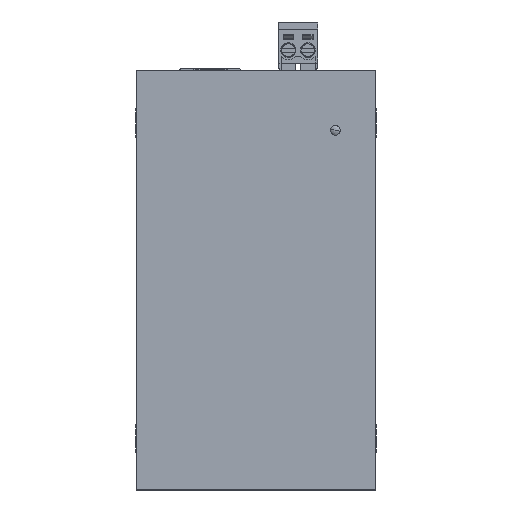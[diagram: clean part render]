
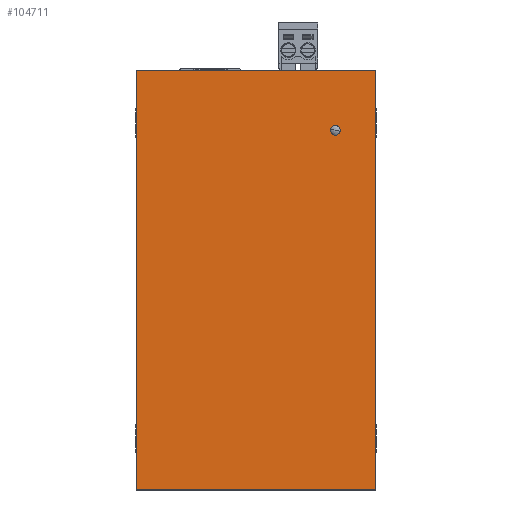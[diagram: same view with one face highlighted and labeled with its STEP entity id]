
A CAD part, top view. The second image highlights one B-rep face of the part: STEP entity #104711.
In plain terms, the highlighted planar face has unit normal (0, 0, 1).
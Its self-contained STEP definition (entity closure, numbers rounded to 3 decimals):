
#44493 = PLANE('',#44494);
#44494 = AXIS2_PLACEMENT_3D('',#44495,#44496,#44497);
#44495 = CARTESIAN_POINT('',(0.,0.,0.));
#44496 = DIRECTION('',(0.,1.,0.));
#44497 = DIRECTION('',(0.,0.,1.));
#44829 = CYLINDRICAL_SURFACE('',#44830,0.95);
#44830 = AXIS2_PLACEMENT_3D('',#44831,#44832,#44833);
#44831 = CARTESIAN_POINT('',(38.75,70.,20.));
#44832 = DIRECTION('',(0.,0.,1.));
#44833 = DIRECTION('',(1.,0.,0.));
#67532 = VERTEX_POINT('',#67533);
#67533 = CARTESIAN_POINT('',(0.,0.,24.4));
#67547 = PLANE('',#67548);
#67548 = AXIS2_PLACEMENT_3D('',#67549,#67550,#67551);
#67549 = CARTESIAN_POINT('',(0.,0.,0.));
#67550 = DIRECTION('',(1.,0.,0.));
#67551 = DIRECTION('',(0.,0.,1.));
#67559 = EDGE_CURVE('',#67532,#67560,#67562,.T.);
#67560 = VERTEX_POINT('',#67561);
#67561 = CARTESIAN_POINT('',(46.6,0.,24.4));
#67562 = SURFACE_CURVE('',#67563,(#67567,#67574),.PCURVE_S1.);
#67563 = LINE('',#67564,#67565);
#67564 = CARTESIAN_POINT('',(0.,0.,24.4));
#67565 = VECTOR('',#67566,1.);
#67566 = DIRECTION('',(1.,0.,0.));
#67567 = PCURVE('',#44493,#67568);
#67568 = DEFINITIONAL_REPRESENTATION('',(#67569),#67573);
#67569 = LINE('',#67570,#67571);
#67570 = CARTESIAN_POINT('',(24.4,0.));
#67571 = VECTOR('',#67572,1.);
#67572 = DIRECTION('',(0.,1.));
#67573 = ( GEOMETRIC_REPRESENTATION_CONTEXT(2) 
PARAMETRIC_REPRESENTATION_CONTEXT() REPRESENTATION_CONTEXT('2D SPACE',''
  ) );
#67574 = PCURVE('',#67575,#67580);
#67575 = PLANE('',#67576);
#67576 = AXIS2_PLACEMENT_3D('',#67577,#67578,#67579);
#67577 = CARTESIAN_POINT('',(0.,0.,24.4));
#67578 = DIRECTION('',(0.,0.,1.));
#67579 = DIRECTION('',(1.,0.,0.));
#67580 = DEFINITIONAL_REPRESENTATION('',(#67581),#67585);
#67581 = LINE('',#67582,#67583);
#67582 = CARTESIAN_POINT('',(0.,0.));
#67583 = VECTOR('',#67584,1.);
#67584 = DIRECTION('',(1.,0.));
#67585 = ( GEOMETRIC_REPRESENTATION_CONTEXT(2) 
PARAMETRIC_REPRESENTATION_CONTEXT() REPRESENTATION_CONTEXT('2D SPACE',''
  ) );
#67601 = PLANE('',#67602);
#67602 = AXIS2_PLACEMENT_3D('',#67603,#67604,#67605);
#67603 = CARTESIAN_POINT('',(46.6,0.,0.));
#67604 = DIRECTION('',(1.,0.,0.));
#67605 = DIRECTION('',(0.,0.,1.));
#69081 = EDGE_CURVE('',#69082,#69082,#69084,.T.);
#69082 = VERTEX_POINT('',#69083);
#69083 = CARTESIAN_POINT('',(39.7,70.,24.4));
#69084 = SURFACE_CURVE('',#69085,(#69090,#69097),.PCURVE_S1.);
#69085 = CIRCLE('',#69086,0.95);
#69086 = AXIS2_PLACEMENT_3D('',#69087,#69088,#69089);
#69087 = CARTESIAN_POINT('',(38.75,70.,24.4));
#69088 = DIRECTION('',(0.,0.,1.));
#69089 = DIRECTION('',(1.,0.,0.));
#69090 = PCURVE('',#44829,#69091);
#69091 = DEFINITIONAL_REPRESENTATION('',(#69092),#69096);
#69092 = LINE('',#69093,#69094);
#69093 = CARTESIAN_POINT('',(0.,4.4));
#69094 = VECTOR('',#69095,1.);
#69095 = DIRECTION('',(1.,0.));
#69096 = ( GEOMETRIC_REPRESENTATION_CONTEXT(2) 
PARAMETRIC_REPRESENTATION_CONTEXT() REPRESENTATION_CONTEXT('2D SPACE',''
  ) );
#69097 = PCURVE('',#67575,#69098);
#69098 = DEFINITIONAL_REPRESENTATION('',(#69099),#69103);
#69099 = CIRCLE('',#69100,0.95);
#69100 = AXIS2_PLACEMENT_2D('',#69101,#69102);
#69101 = CARTESIAN_POINT('',(38.75,70.));
#69102 = DIRECTION('',(1.,0.));
#69103 = ( GEOMETRIC_REPRESENTATION_CONTEXT(2) 
PARAMETRIC_REPRESENTATION_CONTEXT() REPRESENTATION_CONTEXT('2D SPACE',''
  ) );
#69148 = PLANE('',#69149);
#69149 = AXIS2_PLACEMENT_3D('',#69150,#69151,#69152);
#69150 = CARTESIAN_POINT('',(0.,81.7,0.));
#69151 = DIRECTION('',(0.,1.,0.));
#69152 = DIRECTION('',(0.,0.,1.));
#104063 = EDGE_CURVE('',#67560,#104064,#104066,.T.);
#104064 = VERTEX_POINT('',#104065);
#104065 = CARTESIAN_POINT('',(46.6,81.7,24.4));
#104066 = SURFACE_CURVE('',#104067,(#104071,#104078),.PCURVE_S1.);
#104067 = LINE('',#104068,#104069);
#104068 = CARTESIAN_POINT('',(46.6,0.,24.4));
#104069 = VECTOR('',#104070,1.);
#104070 = DIRECTION('',(0.,1.,0.));
#104071 = PCURVE('',#67601,#104072);
#104072 = DEFINITIONAL_REPRESENTATION('',(#104073),#104077);
#104073 = LINE('',#104074,#104075);
#104074 = CARTESIAN_POINT('',(24.4,0.));
#104075 = VECTOR('',#104076,1.);
#104076 = DIRECTION('',(0.,-1.));
#104077 = ( GEOMETRIC_REPRESENTATION_CONTEXT(2) 
PARAMETRIC_REPRESENTATION_CONTEXT() REPRESENTATION_CONTEXT('2D SPACE',''
  ) );
#104078 = PCURVE('',#67575,#104079);
#104079 = DEFINITIONAL_REPRESENTATION('',(#104080),#104084);
#104080 = LINE('',#104081,#104082);
#104081 = CARTESIAN_POINT('',(46.6,0.));
#104082 = VECTOR('',#104083,1.);
#104083 = DIRECTION('',(0.,1.));
#104084 = ( GEOMETRIC_REPRESENTATION_CONTEXT(2) 
PARAMETRIC_REPRESENTATION_CONTEXT() REPRESENTATION_CONTEXT('2D SPACE',''
  ) );
#104477 = EDGE_CURVE('',#67532,#104478,#104480,.T.);
#104478 = VERTEX_POINT('',#104479);
#104479 = CARTESIAN_POINT('',(0.,81.7,24.4));
#104480 = SURFACE_CURVE('',#104481,(#104485,#104492),.PCURVE_S1.);
#104481 = LINE('',#104482,#104483);
#104482 = CARTESIAN_POINT('',(0.,0.,24.4));
#104483 = VECTOR('',#104484,1.);
#104484 = DIRECTION('',(0.,1.,0.));
#104485 = PCURVE('',#67547,#104486);
#104486 = DEFINITIONAL_REPRESENTATION('',(#104487),#104491);
#104487 = LINE('',#104488,#104489);
#104488 = CARTESIAN_POINT('',(24.4,0.));
#104489 = VECTOR('',#104490,1.);
#104490 = DIRECTION('',(0.,-1.));
#104491 = ( GEOMETRIC_REPRESENTATION_CONTEXT(2) 
PARAMETRIC_REPRESENTATION_CONTEXT() REPRESENTATION_CONTEXT('2D SPACE',''
  ) );
#104492 = PCURVE('',#67575,#104493);
#104493 = DEFINITIONAL_REPRESENTATION('',(#104494),#104498);
#104494 = LINE('',#104495,#104496);
#104495 = CARTESIAN_POINT('',(0.,0.));
#104496 = VECTOR('',#104497,1.);
#104497 = DIRECTION('',(0.,1.));
#104498 = ( GEOMETRIC_REPRESENTATION_CONTEXT(2) 
PARAMETRIC_REPRESENTATION_CONTEXT() REPRESENTATION_CONTEXT('2D SPACE',''
  ) );
#104711 = ADVANCED_FACE('',(#104712,#104738),#67575,.T.);
#104712 = FACE_BOUND('',#104713,.T.);
#104713 = EDGE_LOOP('',(#104714,#104715,#104716,#104717));
#104714 = ORIENTED_EDGE('',*,*,#104477,.F.);
#104715 = ORIENTED_EDGE('',*,*,#67559,.T.);
#104716 = ORIENTED_EDGE('',*,*,#104063,.T.);
#104717 = ORIENTED_EDGE('',*,*,#104718,.F.);
#104718 = EDGE_CURVE('',#104478,#104064,#104719,.T.);
#104719 = SURFACE_CURVE('',#104720,(#104724,#104731),.PCURVE_S1.);
#104720 = LINE('',#104721,#104722);
#104721 = CARTESIAN_POINT('',(0.,81.7,24.4));
#104722 = VECTOR('',#104723,1.);
#104723 = DIRECTION('',(1.,0.,0.));
#104724 = PCURVE('',#67575,#104725);
#104725 = DEFINITIONAL_REPRESENTATION('',(#104726),#104730);
#104726 = LINE('',#104727,#104728);
#104727 = CARTESIAN_POINT('',(0.,81.7));
#104728 = VECTOR('',#104729,1.);
#104729 = DIRECTION('',(1.,0.));
#104730 = ( GEOMETRIC_REPRESENTATION_CONTEXT(2) 
PARAMETRIC_REPRESENTATION_CONTEXT() REPRESENTATION_CONTEXT('2D SPACE',''
  ) );
#104731 = PCURVE('',#69148,#104732);
#104732 = DEFINITIONAL_REPRESENTATION('',(#104733),#104737);
#104733 = LINE('',#104734,#104735);
#104734 = CARTESIAN_POINT('',(24.4,0.));
#104735 = VECTOR('',#104736,1.);
#104736 = DIRECTION('',(0.,1.));
#104737 = ( GEOMETRIC_REPRESENTATION_CONTEXT(2) 
PARAMETRIC_REPRESENTATION_CONTEXT() REPRESENTATION_CONTEXT('2D SPACE',''
  ) );
#104738 = FACE_BOUND('',#104739,.T.);
#104739 = EDGE_LOOP('',(#104740));
#104740 = ORIENTED_EDGE('',*,*,#69081,.F.);
